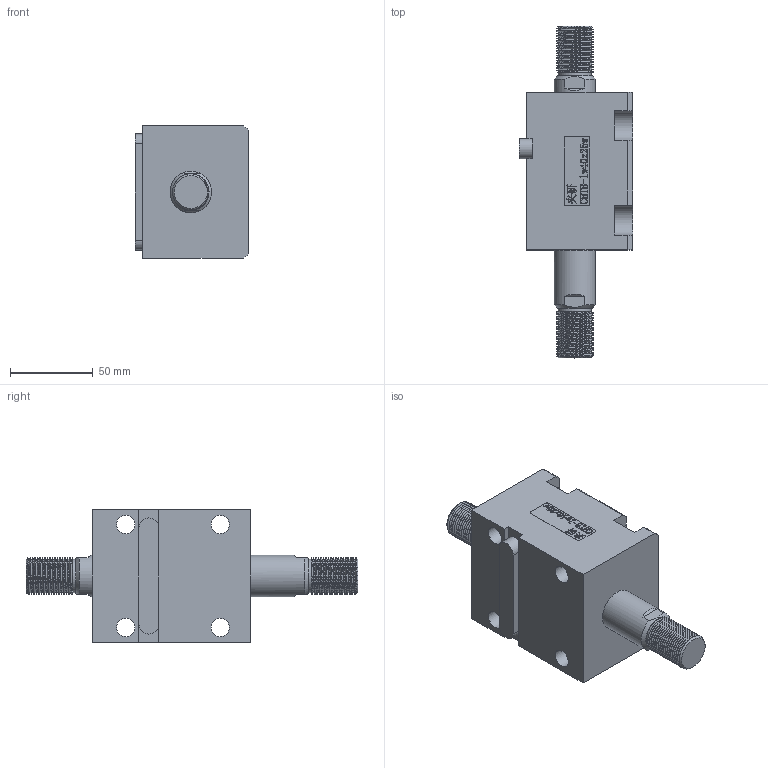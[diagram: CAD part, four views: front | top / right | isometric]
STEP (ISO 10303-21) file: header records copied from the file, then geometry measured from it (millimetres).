
FILE_DESCRIPTION(/* description */ (''),/* implementation_level */ '2;1');
FILE_NAME(/* name */ 'CHTB-lw40x25w.stp',/* time_stamp */ '2022-04-29T17:32:42+08:00',/* author */ (''),/* organization */ (''),/* preprocessor_version */ 'ST-DEVELOPER v16.7',/* originating_system */ 'SIEMENS PLM Software NX 12.0',/* authorisation */ '');
FILE_SCHEMA (('AUTOMOTIVE_DESIGN { 1 0 10303 214 3 1 1 1 }'));
Length unit declared in the file: millimetre
Products named in the file (1): CHTB-lw40x25w
Bounding box: 68.5 x 200 x 80 mm (x, y, z)
Volume: 474354.9 mm3; surface area: 91411.8 mm2
Topology: 4 solids, 4 shells, 493 faces, 1485 edges, 1040 vertices
Faces by surface type: plane 335, extrusion 86, cylinder 43, torus 10, bspline 10, cone 9
Full cylindrical faces by diameter (mm): 4.2 x2, 5 x2, 10.7 x2, 11 x4, 20 x2, 25 x4, 29 x1, 34 x2, 40 x4, 45 x1
Entity records: 26836 total; most frequent: CARTESIAN_POINT 11847, ORIENTED_EDGE 2842, DIRECTION 2035, EDGE_CURVE 1421, VECTOR 1033, VERTEX_POINT 1021, LINE 947, EDGE_LOOP 592
